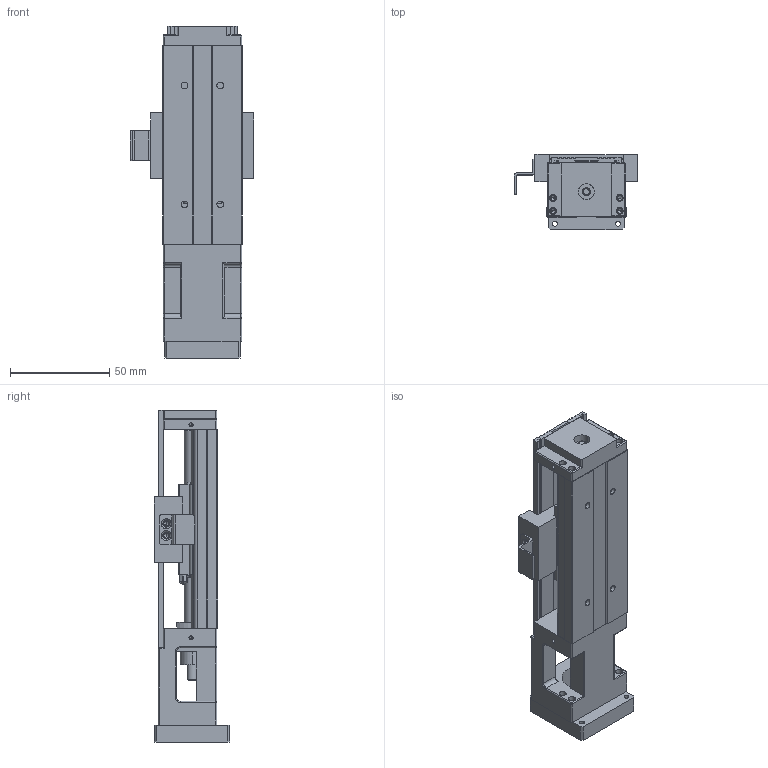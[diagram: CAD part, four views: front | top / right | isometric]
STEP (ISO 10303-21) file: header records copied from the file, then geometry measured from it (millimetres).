
FILE_DESCRIPTION (( 'STEP AP203' ), '1' );
FILE_NAME ('SK40-01-100.step', '2023-01-14T07:18:44', ( '' ), ( '' ), 'SwSTEP 2.0', 'SolidWorks 2018', '' );
FILE_SCHEMA (( 'CONFIG_CONTROL_DESIGN' ));
Length unit declared in the file: millimetre
Products named in the file (14): ____KK-40-F2.STEP; KK40-100____-0.STEP; SK40-01-100; KK40______-1.STEP; KK40________.STEP; KK40______-2.STEP; KK40-A1____.STEP; KK40-100____.STEP; ______KK-40-FS.STEP; KK40____.STEP; ______KK-40-CV-100.STEP; KK40______.STEP; 674____KK-40-S1-D1.STEP; KK40__________.STEP
Assembly tree (14 placements, depth 2):
  SK40-01-100
    KK40-100____.STEP
    KK40____.STEP
    KK40______.STEP
    KK40__________.STEP
    KK40-100____-0.STEP
    KK40______-1.STEP  x2
    KK40________.STEP
    KK40______-2.STEP
    KK40-A1____.STEP
    ______KK-40-FS.STEP
    ______KK-40-CV-100.STEP
    674____KK-40-S1-D1.STEP
    ____KK-40-F2.STEP
Bounding box: 62.5 x 38 x 167.5 mm (x, y, z)
Volume: 115875 mm3; surface area: 65951.8 mm2
Topology: 14 solids, 19 shells, 846 faces, 2242 edges, 1387 vertices
Faces by surface type: cylinder 391, plane 316, cone 110, bspline 29
Entity records: 27994 total; most frequent: CARTESIAN_POINT 5739, DIRECTION 4427, ORIENTED_EDGE 4256, EDGE_CURVE 2128, AXIS2_PLACEMENT_3D 1621, VERTEX_POINT 1377, LINE 1185, VECTOR 1185
